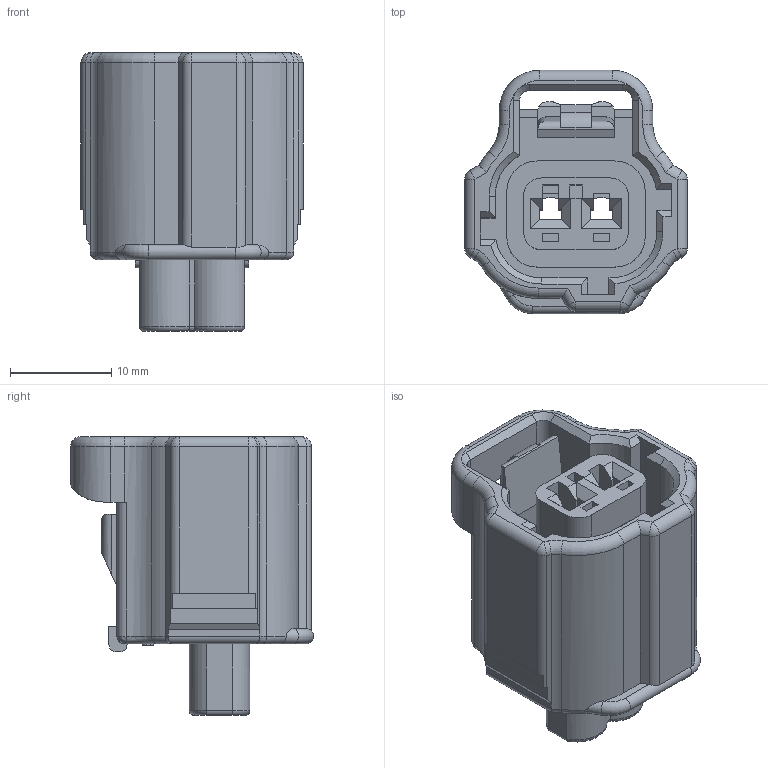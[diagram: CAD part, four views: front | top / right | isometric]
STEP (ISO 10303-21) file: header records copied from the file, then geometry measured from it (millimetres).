
FILE_DESCRIPTION((''),'2;1');
FILE_NAME('C-0184010-01-3','2007-09-03T',('workeradm'),('Tyco Electronics Corporation'),'PRO/ENGINEER BY PARAMETRIC TECHNOLOGY CORPORATION, 2005450','PRO/ENGINEER BY PARAMETRIC TECHNOLOGY CORPORATION, 2005450','');
FILE_SCHEMA(('CONFIG_CONTROL_DESIGN', 'GEOMETRIC_VALIDATION_PROPERTIES_MIM'));
Length unit declared in the file: millimetre
Products named in the file (1): C-0184010-01-3
Bounding box: 22 x 24.05 x 27.61 mm (x, y, z)
Volume: 4912.1 mm3; surface area: 5128.6 mm2
Topology: 1 solids, 1 shells, 342 faces, 903 edges, 568 vertices
Faces by surface type: plane 216, cylinder 81, torus 28, sphere 6, cone 6, bspline 3, extrusion 2
Entity records: 10966 total; most frequent: CARTESIAN_POINT 2391, ORIENTED_EDGE 1806, DIRECTION 1700, EDGE_CURVE 903, VECTOR 638, LINE 636, VERTEX_POINT 568, AXIS2_PLACEMENT_3D 531
